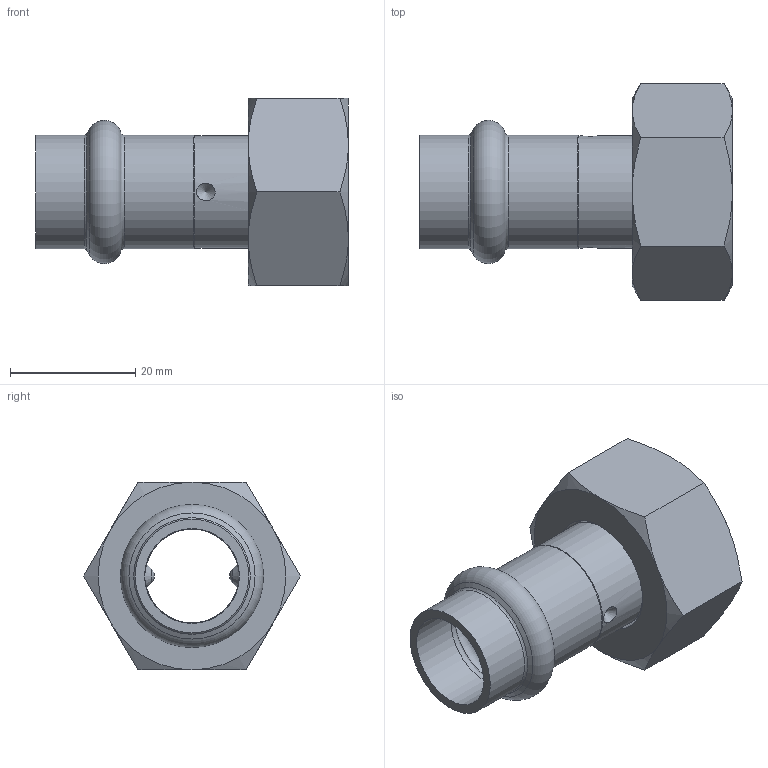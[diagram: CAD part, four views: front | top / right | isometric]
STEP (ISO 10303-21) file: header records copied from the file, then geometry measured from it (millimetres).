
FILE_DESCRIPTION((''),'2;1');
FILE_NAME('G:\Nirosan-Schmiedefeld\Technics\CAD\001 Serie 9.000\015\69359M1534H(4).stp','2017-06-21T11:41:45',('herberg'),(''),'Autodesk Inventor 2009','Autodesk Inventor 2009','');
FILE_SCHEMA(('AUTOMOTIVE_DESIGN { 1 0 10303 214 1 1 1 1 }'));
Length unit declared in the file: millimetre
Products named in the file (5): 69359M1534H(4); 69HM1518P(0); 69ATB1834P(0); 69MS1534P(0); FD_2417_EPDM(0)
Assembly tree (4 placements, depth 2):
  69359M1534H(4)
    69HM1518P(0)
    69ATB1834P(0)
    69MS1534P(0)
    FD_2417_EPDM(0)
Bounding box: 50 x 34.64 x 30 mm (x, y, z)
Volume: 10248.8 mm3; surface area: 9741.9 mm2
Topology: 4 solids, 4 shells, 62 faces, 133 edges, 80 vertices
Faces by surface type: cone 24, plane 15, cylinder 11, bspline 8, sphere 2, torus 2
Full cylindrical faces by diameter (mm): 15 x2, 15.15 x2, 17 x1, 18 x2, 18.15 x2, 23 x1, 24 x1
Entity records: 2001 total; most frequent: CARTESIAN_POINT 773, DIRECTION 236, ORIENTED_EDGE 180, AXIS2_PLACEMENT_3D 115, EDGE_LOOP 104, EDGE_CURVE 90, VERTEX_POINT 70, FACE_OUTER_BOUND 62
